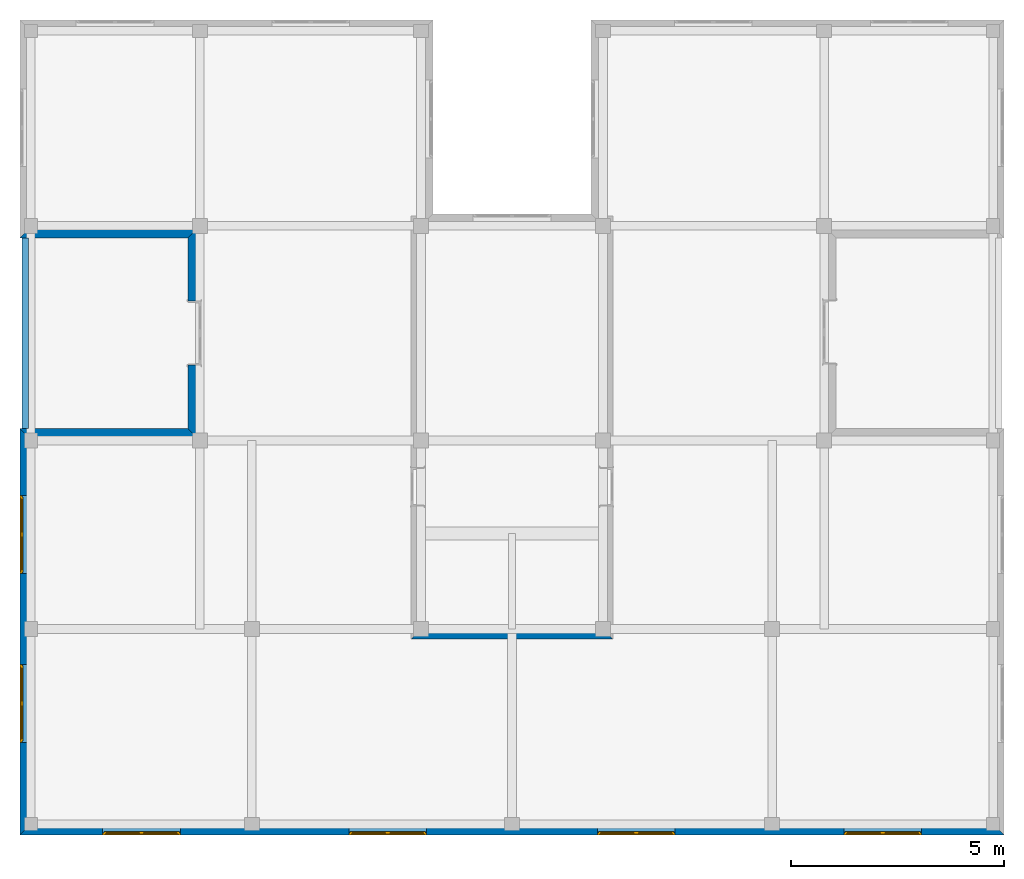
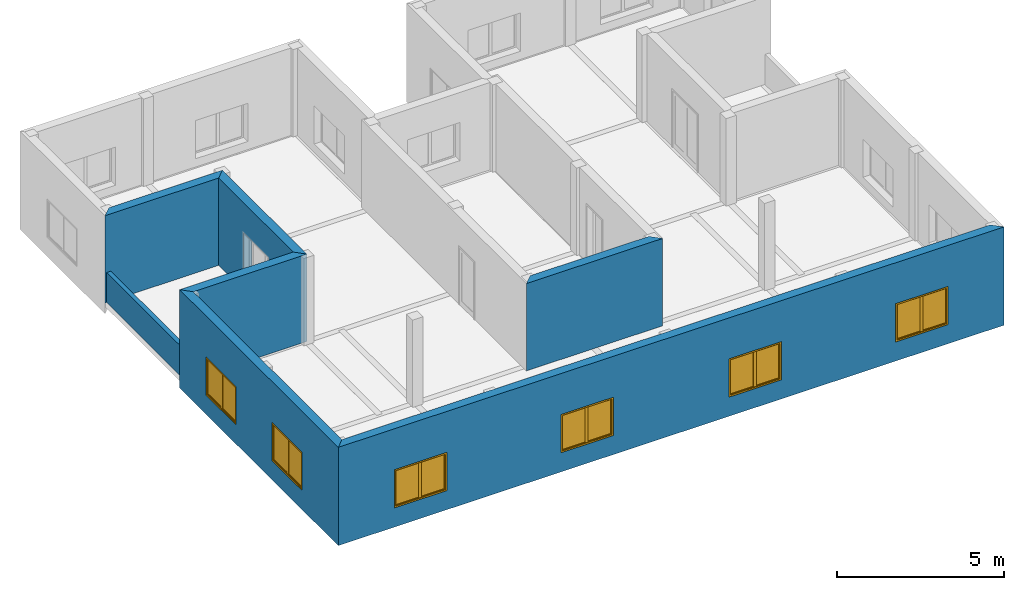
# One storey, part 2 of 6: 7 walls, 6 windows, 7 openings.
"""IFC2X3 building model written with IfcOpenShell, lengths in millimetres."""

from ifc_helpers import new_model, entity, si_unit, converted_unit, direction, frame, origin_with_axes, origin_2d_with_axis, place, context, subcontext, project, spatial, polyline, rectangle, outline, extrude, faceted_brep, source, transform, mapped, material, layer, layer_set, layer_usage, type_object, element, fill, save


model = new_model("IFC2X3")

# Units and contexts
model_context = context("Model", 3, precision=1e-05, world=origin_with_axes(), true_north=direction((0.0, 1.0)))
body_context = subcontext(model_context, "Body", "Model", "MODEL_VIEW")
ifc_project = project(units=[si_unit("LENGTHUNIT", "METRE", prefix="MILLI"), si_unit("AREAUNIT", "SQUARE_METRE"), si_unit("VOLUMEUNIT", "CUBIC_METRE"), converted_unit("PLANEANGLEUNIT", "DEGREE", entity("IfcPlaneAngleMeasure", 0.017453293), si_unit("PLANEANGLEUNIT", "RADIAN"), dimensions=[0, 0, 0, 0, 0, 0, 0]), si_unit("SOLIDANGLEUNIT", "STERADIAN"), si_unit("MASSUNIT", "GRAM"), si_unit("TIMEUNIT", "SECOND"), si_unit("THERMODYNAMICTEMPERATUREUNIT", "DEGREE_CELSIUS"), si_unit("LUMINOUSINTENSITYUNIT", "LUMEN")], contexts=[model_context])

# Site, building, storey
site_placement = place(None, origin_with_axes())
site = spatial("IfcSite", under=ifc_project, at=site_placement, Name="Sitio", CompositionType="ELEMENT")
building_placement = place(site_placement, origin_with_axes())
building = spatial("IfcBuilding", under=site, at=building_placement, Name="Ejemplo_StruBIM", CompositionType="ELEMENT")
storey_placement = place(building_placement, frame((0.0, 0.0, 3200.4), z_axis=(0.0, 0.0, 1.0), x_axis=(1.0, 0.0, 0.0)))
storey = spatial("IfcBuildingStorey", under=building, at=storey_placement, Name="First floor", CompositionType="ELEMENT", Elevation=3200.4)

# Wall, openings, windows
ifc_material_1 = material(Name="Bloque mampostería")
ifc_layer_1 = layer(ifc_material_1, 300.0, ventilated="UNKNOWN")
ifc_layer_set_1 = layer_set([ifc_layer_1], Name="Bloque mampostería 300")
ifc_layer_usage_1 = layer_usage(ifc_layer_set_1, "AXIS2", "POSITIVE", 0.0)
wall_type_1 = type_object("IfcWallType", Name="Bloque mampostería 11 3/4\"", PredefinedType="NOTDEFINED")
wall_1_placement = place(storey_placement, frame((-254.0, 9271.0, -400.0), z_axis=(0.0, 0.0, 1.0), x_axis=(0.0, -1.0, 0.0)))
wall_1 = element("IfcWallStandardCase", 1, at=wall_1_placement, inside=storey, type_object=wall_type_1, material=ifc_layer_usage_1, Name="Muro-010", context=body_context, shape_type="SweptSolid", body=[
    extrude(outline(polyline([(0.0, 0.0), (9525.0, 0.0), (9225.0, 300.0), (300.0, 300.0), (0.0, 0.0)])), origin_with_axes(), (0.0, 0.0, 1.0), 3600.4),
])
opening_1_placement = place(wall_1_placement, frame((2484.8, 0.0, 700.0), z_axis=(0.0, 0.0, 1.0), x_axis=(1.0, 0.0, 0.0)))
opening_1 = element("IfcOpeningElement", 2, at=opening_1_placement, cuts=wall_1, Name="V06", context=body_context, shape_type="SweptSolid", body=[
    extrude(rectangle(XDim=1820.0, YDim=1400.0, at=origin_2d_with_axis()), frame((0.0, 300.0, 700.0), z_axis=(0.0, 1.0, 0.0), x_axis=(1.0, 0.0, 0.0)), (0.0, 0.0, -1.0), 300.0),
])
opening_2_placement = place(wall_1_placement, frame((6443.3, 0.0, 700.0), z_axis=(0.0, 0.0, 1.0), x_axis=(1.0, 0.0, 0.0)))
opening_2 = element("IfcOpeningElement", 3, at=opening_2_placement, cuts=wall_1, Name="V07", context=body_context, shape_type="SweptSolid", body=[
    extrude(rectangle(XDim=1820.0, YDim=1400.0, at=origin_2d_with_axis()), frame((0.0, 300.0, 700.0), z_axis=(0.0, -1.0, 0.0), x_axis=(1.0, 0.0, 0.0)), (0.0, 0.0, 1.0), 300.0),
])
ifc_material_2 = material(Name="Fondo")
window_style = type_object("IfcWindowStyle", Name="Ventana Doble Hoja 16", ConstructionType="NOTDEFINED", OperationType="DOUBLE_PANEL_HORIZONTAL", ParameterTakesPrecedence=False, Sizeable=False)
shared_shape_1 = source(origin_with_axes(), body_context, "Body", "Brep", [
    faceted_brep([(885.0, -50.0, 1350.0), (910.0, -50.0, 1350.0), (910.0, 0.0, 1350.0), (860.0, 0.0, 1350.0), (860.0, -25.0, 1350.0), (885.0, -25.0, 1350.0), (885.0, -50.0, 50.0), (910.0, -50.0, 50.0), (910.0, 0.0, 50.0), (860.0, 0.0, 50.0), (860.0, -25.0, 50.0), (885.0, -25.0, 50.0)], [[[0, 1, 2, 3, 4, 5]], [[6, 7, 1, 0]], [[1, 7, 8, 2]], [[2, 8, 9, 3]], [[4, 3, 9, 10]], [[10, 11, 5, 4]], [[5, 11, 6, 0]], [[11, 10, 9, 8, 7, 6]]]),
    faceted_brep([(-860.0, -25.0, 1350.0), (-860.0, 0.0, 1350.0), (-910.0, 0.0, 1350.0), (-910.0, -50.0, 1350.0), (-885.0, -50.0, 1350.0), (-885.0, -25.0, 1350.0), (-860.0, -25.0, 50.0), (-860.0, 0.0, 50.0), (-910.0, 0.0, 50.0), (-910.0, -50.0, 50.0), (-885.0, -50.0, 50.0), (-885.0, -25.0, 50.0)], [[[0, 1, 2, 3, 4, 5]], [[6, 7, 1, 0]], [[8, 2, 1, 7]], [[9, 3, 2, 8]], [[4, 3, 9, 10]], [[10, 11, 5, 4]], [[5, 11, 6, 0]], [[11, 10, 9, 8, 7, 6]]]),
    faceted_brep([(-860.0, -25.0, 50.0), (-860.0, 0.0, 50.0), (-910.0, 0.0, 50.0), (-910.0, -50.0, 50.0), (-885.0, -50.0, 50.0), (-885.0, -25.0, 50.0), (860.0, -25.0, 50.0), (860.0, 0.0, 50.0), (910.0, 0.0, 50.0), (910.0, 0.0, 0.0), (-910.0, 0.0, 0.0), (-910.0, -50.0, 0.0), (885.0, -50.0, 25.0), (-885.0, -50.0, 25.0), (910.0, -50.0, 0.0), (910.0, -50.0, 50.0), (885.0, -50.0, 50.0), (-885.0, -25.0, 25.0), (885.0, -25.0, 25.0), (885.0, -25.0, 50.0)], [[[0, 1, 2, 3, 4, 5]], [[6, 7, 1, 0]], [[8, 9, 10, 2, 1, 7]], [[11, 3, 2, 10]], [[12, 13, 4, 3, 11, 14, 15, 16]], [[13, 17, 5, 4]], [[5, 17, 18, 19, 6, 0]], [[19, 16, 15, 8, 7, 6]], [[15, 14, 9, 8]], [[14, 11, 10, 9]], [[12, 18, 17, 13]], [[19, 18, 12, 16]]]),
    faceted_brep([(885.0, -50.0, 1350.0), (910.0, -50.0, 1350.0), (910.0, -50.0, 1400.0), (-910.0, -50.0, 1400.0), (-910.0, -50.0, 1350.0), (-885.0, -50.0, 1350.0), (-885.0, -50.0, 1375.0), (885.0, -50.0, 1375.0), (885.0, -25.0, 1350.0), (860.0, -25.0, 1350.0), (860.0, 0.0, 1350.0), (910.0, 0.0, 1350.0), (910.0, 0.0, 1400.0), (-910.0, 0.0, 1400.0), (-910.0, 0.0, 1350.0), (-885.0, -25.0, 1350.0), (-860.0, 0.0, 1350.0), (-860.0, -25.0, 1350.0), (-885.0, -25.0, 1375.0), (885.0, -25.0, 1375.0)], [[[0, 1, 2, 3, 4, 5, 6, 7]], [[8, 9, 10, 11, 1, 0]], [[2, 1, 11, 12]], [[3, 2, 12, 13]], [[4, 3, 13, 14]], [[15, 5, 4, 14, 16, 17]], [[5, 15, 18, 6]], [[6, 18, 19, 7]], [[7, 19, 8, 0]], [[17, 9, 8, 19, 18, 15]], [[17, 16, 10, 9]], [[14, 13, 12, 11, 10, 16]]]),
    faceted_brep([(835.0, -25.0, 1325.0), (835.0, -75.0, 1325.0), (885.0, -75.0, 1325.0), (885.0, -25.0, 1325.0), (835.0, -25.0, 75.0), (835.0, -75.0, 75.0), (885.0, -75.0, 75.0), (885.0, -25.0, 75.0)], [[[0, 1, 2, 3]], [[4, 5, 1, 0]], [[1, 5, 6, 2]], [[3, 2, 6, 7]], [[0, 3, 7, 4]], [[7, 6, 5, 4]]]),
    faceted_brep([(50.0, -25.0, 75.0), (50.0, -75.0, 75.0), (0.0, -75.0, 75.0), (0.0, -25.0, 75.0), (50.0, -25.0, 1325.0), (50.0, -75.0, 1325.0), (0.0, -75.0, 1325.0), (0.0, -25.0, 1325.0)], [[[0, 1, 2, 3]], [[4, 5, 1, 0]], [[1, 5, 6, 2]], [[3, 2, 6, 7]], [[0, 3, 7, 4]], [[7, 6, 5, 4]]]),
    faceted_brep([(0.0, -25.0, 25.0), (0.0, -75.0, 25.0), (0.0, -75.0, 75.0), (0.0, -25.0, 75.0), (885.0, -25.0, 25.0), (885.0, -75.0, 25.0), (885.0, -75.0, 75.0), (835.0, -75.0, 75.0), (50.0, -75.0, 75.0), (50.0, -25.0, 75.0), (835.0, -25.0, 75.0), (885.0, -25.0, 75.0)], [[[0, 1, 2, 3]], [[4, 5, 1, 0]], [[1, 5, 6, 7, 8, 2]], [[3, 2, 8, 9]], [[0, 3, 9, 10, 11, 4]], [[11, 6, 5, 4]], [[10, 7, 6, 11]], [[9, 8, 7, 10]]]),
    faceted_brep([(885.0, -25.0, 1375.0), (885.0, -75.0, 1375.0), (885.0, -75.0, 1325.0), (885.0, -25.0, 1325.0), (0.0, -25.0, 1375.0), (0.0, -75.0, 1375.0), (0.0, -75.0, 1325.0), (50.0, -75.0, 1325.0), (835.0, -75.0, 1325.0), (835.0, -25.0, 1325.0), (50.0, -25.0, 1325.0), (0.0, -25.0, 1325.0)], [[[0, 1, 2, 3]], [[4, 5, 1, 0]], [[1, 5, 6, 7, 8, 2]], [[3, 2, 8, 9]], [[0, 3, 9, 10, 11, 4]], [[11, 6, 5, 4]], [[10, 7, 6, 11]], [[9, 8, 7, 10]]]),
    faceted_brep([(835.0, -40.0, 75.0), (835.0, -60.0, 75.0), (50.0, -60.0, 75.0), (50.0, -40.0, 75.0), (835.0, -40.0, 1325.0), (835.0, -60.0, 1325.0), (50.0, -60.0, 1325.0), (50.0, -40.0, 1325.0)], [[[0, 1, 2, 3]], [[4, 5, 1, 0]], [[1, 5, 6, 2]], [[3, 2, 6, 7]], [[0, 3, 7, 4]], [[7, 6, 5, 4]]]),
    faceted_brep([(-50.0, -25.0, 1325.0), (-50.0, -75.0, 1325.0), (0.0, -75.0, 1325.0), (0.0, -25.0, 1325.0), (-50.0, -25.0, 75.0), (-50.0, -75.0, 75.0), (0.0, -75.0, 75.0), (0.0, -25.0, 75.0)], [[[0, 1, 2, 3]], [[4, 5, 1, 0]], [[1, 5, 6, 2]], [[3, 2, 6, 7]], [[0, 3, 7, 4]], [[7, 6, 5, 4]]]),
    faceted_brep([(-835.0, -25.0, 75.0), (-835.0, -75.0, 75.0), (-885.0, -75.0, 75.0), (-885.0, -25.0, 75.0), (-835.0, -25.0, 1325.0), (-835.0, -75.0, 1325.0), (-885.0, -75.0, 1325.0), (-885.0, -25.0, 1325.0)], [[[0, 1, 2, 3]], [[4, 5, 1, 0]], [[1, 5, 6, 2]], [[3, 2, 6, 7]], [[0, 3, 7, 4]], [[7, 6, 5, 4]]]),
    faceted_brep([(-885.0, -25.0, 25.0), (-885.0, -75.0, 25.0), (-885.0, -75.0, 75.0), (-885.0, -25.0, 75.0), (0.0, -25.0, 25.0), (0.0, -75.0, 25.0), (0.0, -75.0, 75.0), (-50.0, -75.0, 75.0), (-835.0, -75.0, 75.0), (-835.0, -25.0, 75.0), (-50.0, -25.0, 75.0), (0.0, -25.0, 75.0)], [[[0, 1, 2, 3]], [[4, 5, 1, 0]], [[1, 5, 6, 7, 8, 2]], [[3, 2, 8, 9]], [[0, 3, 9, 10, 11, 4]], [[11, 6, 5, 4]], [[10, 7, 6, 11]], [[9, 8, 7, 10]]]),
    faceted_brep([(0.0, -25.0, 1375.0), (0.0, -75.0, 1375.0), (0.0, -75.0, 1325.0), (0.0, -25.0, 1325.0), (-885.0, -25.0, 1375.0), (-885.0, -75.0, 1375.0), (-885.0, -75.0, 1325.0), (-835.0, -75.0, 1325.0), (-50.0, -75.0, 1325.0), (-50.0, -25.0, 1325.0), (-835.0, -25.0, 1325.0), (-885.0, -25.0, 1325.0)], [[[0, 1, 2, 3]], [[4, 5, 1, 0]], [[1, 5, 6, 7, 8, 2]], [[3, 2, 8, 9]], [[0, 3, 9, 10, 11, 4]], [[11, 6, 5, 4]], [[10, 7, 6, 11]], [[9, 8, 7, 10]]]),
    faceted_brep([(-50.0, -40.0, 75.0), (-50.0, -60.0, 75.0), (-835.0, -60.0, 75.0), (-835.0, -40.0, 75.0), (-50.0, -40.0, 1325.0), (-50.0, -60.0, 1325.0), (-835.0, -60.0, 1325.0), (-835.0, -40.0, 1325.0)], [[[0, 1, 2, 3]], [[4, 5, 1, 0]], [[1, 5, 6, 2]], [[3, 2, 6, 7]], [[0, 3, 7, 4]], [[7, 6, 5, 4]]]),
])
window_1_placement = place(opening_1_placement, frame((910.0, 0.0, 0.0), z_axis=(0.0, 0.0, 1.0), x_axis=(-1.0, 0.0, 0.0)))
window_1 = element("IfcWindow", 4, at=window_1_placement, inside=storey, type_object=window_style, material=ifc_material_2, Name="V06", OverallHeight=1400.0, OverallWidth=1820.0, context=body_context, shape_type="MappedRepresentation", body=[
    mapped(shared_shape_1, transform((910.0, 0.0, 0.0))),
])
fill(opening_1, window_1)
shared_shape_2 = source(origin_with_axes(), body_context, "Body", "Brep", [
    faceted_brep([(-885.0, -50.0, 1350.0), (-885.0, -25.0, 1350.0), (-860.0, -25.0, 1350.0), (-860.0, 0.0, 1350.0), (-910.0, 0.0, 1350.0), (-910.0, -50.0, 1350.0), (-885.0, -50.0, 50.0), (-885.0, -25.0, 50.0), (-860.0, -25.0, 50.0), (-860.0, 0.0, 50.0), (-910.0, 0.0, 50.0), (-910.0, -50.0, 50.0)], [[[0, 1, 2, 3, 4, 5]], [[1, 0, 6, 7]], [[8, 2, 1, 7]], [[2, 8, 9, 3]], [[4, 3, 9, 10]], [[5, 4, 10, 11]], [[6, 0, 5, 11]], [[7, 6, 11, 10, 9, 8]]]),
    faceted_brep([(860.0, -25.0, 1350.0), (885.0, -25.0, 1350.0), (885.0, -50.0, 1350.0), (910.0, -50.0, 1350.0), (910.0, 0.0, 1350.0), (860.0, 0.0, 1350.0), (860.0, -25.0, 50.0), (885.0, -25.0, 50.0), (885.0, -50.0, 50.0), (910.0, -50.0, 50.0), (910.0, 0.0, 50.0), (860.0, 0.0, 50.0)], [[[0, 1, 2, 3, 4, 5]], [[1, 0, 6, 7]], [[8, 2, 1, 7]], [[2, 8, 9, 3]], [[9, 10, 4, 3]], [[10, 11, 5, 4]], [[6, 0, 5, 11]], [[7, 6, 11, 10, 9, 8]]]),
    faceted_brep([(860.0, -25.0, 50.0), (885.0, -25.0, 50.0), (885.0, -50.0, 50.0), (910.0, -50.0, 50.0), (910.0, 0.0, 50.0), (860.0, 0.0, 50.0), (-860.0, -25.0, 50.0), (-885.0, -25.0, 50.0), (-885.0, -25.0, 25.0), (885.0, -25.0, 25.0), (885.0, -50.0, 25.0), (-885.0, -50.0, 25.0), (-885.0, -50.0, 50.0), (-910.0, -50.0, 50.0), (-910.0, -50.0, 0.0), (910.0, -50.0, 0.0), (910.0, 0.0, 0.0), (-910.0, 0.0, 50.0), (-860.0, 0.0, 50.0), (-910.0, 0.0, 0.0)], [[[0, 1, 2, 3, 4, 5]], [[1, 0, 6, 7, 8, 9]], [[10, 2, 1, 9]], [[11, 12, 13, 14, 15, 3, 2, 10]], [[15, 16, 4, 3]], [[17, 18, 5, 4, 16, 19]], [[6, 0, 5, 18]], [[7, 6, 18, 17, 13, 12]], [[7, 12, 11, 8]], [[11, 10, 9, 8]], [[13, 17, 19, 14]], [[14, 19, 16, 15]]]),
    faceted_brep([(-885.0, -50.0, 1350.0), (-885.0, -50.0, 1375.0), (885.0, -50.0, 1375.0), (885.0, -50.0, 1350.0), (910.0, -50.0, 1350.0), (910.0, -50.0, 1400.0), (-910.0, -50.0, 1400.0), (-910.0, -50.0, 1350.0), (-885.0, -25.0, 1350.0), (-885.0, -25.0, 1375.0), (885.0, -25.0, 1375.0), (885.0, -25.0, 1350.0), (860.0, -25.0, 1350.0), (860.0, 0.0, 1350.0), (910.0, 0.0, 1350.0), (910.0, 0.0, 1400.0), (-910.0, 0.0, 1400.0), (-910.0, 0.0, 1350.0), (-860.0, 0.0, 1350.0), (-860.0, -25.0, 1350.0)], [[[0, 1, 2, 3, 4, 5, 6, 7]], [[1, 0, 8, 9]], [[2, 1, 9, 10]], [[3, 2, 10, 11]], [[11, 12, 13, 14, 4, 3]], [[4, 14, 15, 5]], [[5, 15, 16, 6]], [[6, 16, 17, 7]], [[8, 0, 7, 17, 18, 19]], [[12, 11, 10, 9, 8, 19]], [[12, 19, 18, 13]], [[14, 13, 18, 17, 16, 15]]]),
    faceted_brep([(-835.0, -25.0, 1325.0), (-885.0, -25.0, 1325.0), (-885.0, -75.0, 1325.0), (-835.0, -75.0, 1325.0), (-835.0, -25.0, 75.0), (-885.0, -25.0, 75.0), (-885.0, -75.0, 75.0), (-835.0, -75.0, 75.0)], [[[0, 1, 2, 3]], [[0, 4, 5, 1]], [[1, 5, 6, 2]], [[3, 2, 6, 7]], [[4, 0, 3, 7]], [[5, 4, 7, 6]]]),
    faceted_brep([(-50.0, -25.0, 75.0), (0.0, -25.0, 75.0), (0.0, -75.0, 75.0), (-50.0, -75.0, 75.0), (-50.0, -25.0, 1325.0), (0.0, -25.0, 1325.0), (0.0, -75.0, 1325.0), (-50.0, -75.0, 1325.0)], [[[0, 1, 2, 3]], [[0, 4, 5, 1]], [[1, 5, 6, 2]], [[3, 2, 6, 7]], [[4, 0, 3, 7]], [[5, 4, 7, 6]]]),
    faceted_brep([(0.0, -25.0, 25.0), (0.0, -25.0, 75.0), (0.0, -75.0, 75.0), (0.0, -75.0, 25.0), (-885.0, -25.0, 25.0), (-885.0, -25.0, 75.0), (-835.0, -25.0, 75.0), (-50.0, -25.0, 75.0), (-50.0, -75.0, 75.0), (-835.0, -75.0, 75.0), (-885.0, -75.0, 75.0), (-885.0, -75.0, 25.0)], [[[0, 1, 2, 3]], [[0, 4, 5, 6, 7, 1]], [[1, 7, 8, 2]], [[3, 2, 8, 9, 10, 11]], [[4, 0, 3, 11]], [[5, 4, 11, 10]], [[6, 5, 10, 9]], [[7, 6, 9, 8]]]),
    faceted_brep([(-885.0, -25.0, 1375.0), (-885.0, -25.0, 1325.0), (-885.0, -75.0, 1325.0), (-885.0, -75.0, 1375.0), (0.0, -25.0, 1375.0), (0.0, -25.0, 1325.0), (-50.0, -25.0, 1325.0), (-835.0, -25.0, 1325.0), (-835.0, -75.0, 1325.0), (-50.0, -75.0, 1325.0), (0.0, -75.0, 1325.0), (0.0, -75.0, 1375.0)], [[[0, 1, 2, 3]], [[0, 4, 5, 6, 7, 1]], [[1, 7, 8, 2]], [[3, 2, 8, 9, 10, 11]], [[4, 0, 3, 11]], [[5, 4, 11, 10]], [[6, 5, 10, 9]], [[7, 6, 9, 8]]]),
    faceted_brep([(-835.0, -40.0, 75.0), (-50.0, -40.0, 75.0), (-50.0, -60.0, 75.0), (-835.0, -60.0, 75.0), (-835.0, -40.0, 1325.0), (-50.0, -40.0, 1325.0), (-50.0, -60.0, 1325.0), (-835.0, -60.0, 1325.0)], [[[0, 1, 2, 3]], [[0, 4, 5, 1]], [[1, 5, 6, 2]], [[3, 2, 6, 7]], [[4, 0, 3, 7]], [[5, 4, 7, 6]]]),
    faceted_brep([(50.0, -25.0, 1325.0), (0.0, -25.0, 1325.0), (0.0, -75.0, 1325.0), (50.0, -75.0, 1325.0), (50.0, -25.0, 75.0), (0.0, -25.0, 75.0), (0.0, -75.0, 75.0), (50.0, -75.0, 75.0)], [[[0, 1, 2, 3]], [[0, 4, 5, 1]], [[1, 5, 6, 2]], [[3, 2, 6, 7]], [[4, 0, 3, 7]], [[5, 4, 7, 6]]]),
    faceted_brep([(835.0, -25.0, 75.0), (885.0, -25.0, 75.0), (885.0, -75.0, 75.0), (835.0, -75.0, 75.0), (835.0, -25.0, 1325.0), (885.0, -25.0, 1325.0), (885.0, -75.0, 1325.0), (835.0, -75.0, 1325.0)], [[[0, 1, 2, 3]], [[0, 4, 5, 1]], [[1, 5, 6, 2]], [[3, 2, 6, 7]], [[4, 0, 3, 7]], [[5, 4, 7, 6]]]),
    faceted_brep([(885.0, -25.0, 25.0), (885.0, -25.0, 75.0), (885.0, -75.0, 75.0), (885.0, -75.0, 25.0), (0.0, -25.0, 25.0), (0.0, -25.0, 75.0), (50.0, -25.0, 75.0), (835.0, -25.0, 75.0), (835.0, -75.0, 75.0), (50.0, -75.0, 75.0), (0.0, -75.0, 75.0), (0.0, -75.0, 25.0)], [[[0, 1, 2, 3]], [[0, 4, 5, 6, 7, 1]], [[1, 7, 8, 2]], [[3, 2, 8, 9, 10, 11]], [[4, 0, 3, 11]], [[5, 4, 11, 10]], [[6, 5, 10, 9]], [[7, 6, 9, 8]]]),
    faceted_brep([(0.0, -25.0, 1375.0), (0.0, -25.0, 1325.0), (0.0, -75.0, 1325.0), (0.0, -75.0, 1375.0), (885.0, -25.0, 1375.0), (885.0, -25.0, 1325.0), (835.0, -25.0, 1325.0), (50.0, -25.0, 1325.0), (50.0, -75.0, 1325.0), (835.0, -75.0, 1325.0), (885.0, -75.0, 1325.0), (885.0, -75.0, 1375.0)], [[[0, 1, 2, 3]], [[0, 4, 5, 6, 7, 1]], [[1, 7, 8, 2]], [[3, 2, 8, 9, 10, 11]], [[4, 0, 3, 11]], [[5, 4, 11, 10]], [[6, 5, 10, 9]], [[7, 6, 9, 8]]]),
    faceted_brep([(50.0, -40.0, 75.0), (835.0, -40.0, 75.0), (835.0, -60.0, 75.0), (50.0, -60.0, 75.0), (50.0, -40.0, 1325.0), (835.0, -40.0, 1325.0), (835.0, -60.0, 1325.0), (50.0, -60.0, 1325.0)], [[[0, 1, 2, 3]], [[0, 4, 5, 1]], [[1, 5, 6, 2]], [[3, 2, 6, 7]], [[4, 0, 3, 7]], [[5, 4, 7, 6]]]),
])
window_2_placement = place(opening_2_placement, frame((910.0, 0.0, 0.0), z_axis=(0.0, 0.0, 1.0), x_axis=(-1.0, 0.0, 0.0)))
window_2 = element("IfcWindow", 5, at=window_2_placement, inside=storey, type_object=window_style, material=ifc_material_2, Name="V07", OverallHeight=1400.0, OverallWidth=1820.0, context=body_context, shape_type="MappedRepresentation", body=[
    mapped(shared_shape_2, transform((910.0, 0.0, 0.0))),
])
fill(opening_2, window_2)

# Wall
ifc_layer_usage_2 = layer_usage(ifc_layer_set_1, "AXIS2", "POSITIVE", 0.0)
wall_2_placement = place(storey_placement, frame((-254.0, 13741.4, 0.0), z_axis=(0.0, 0.0, 1.0), x_axis=(1.0, 0.0, 0.0)))
element("IfcWallStandardCase", 6, at=wall_2_placement, inside=storey, type_object=wall_type_1, material=ifc_layer_usage_2, Name="Muro-007", context=body_context, shape_type="SweptSolid", body=[
    extrude(outline(polyline([(0.0, 0.0), (3937.0, 0.0), (4237.0, 300.0), (300.0, 300.0), (0.0, 0.0)])), origin_with_axes(), (0.0, 0.0, 1.0), 3200.4),
])

# Wall, opening
ifc_layer_usage_3 = layer_usage(ifc_layer_set_1, "AXIS2", "POSITIVE", 0.0)
wall_3_placement = place(storey_placement, frame((3683.0, 13741.4, 0.0), z_axis=(0.0, 0.0, 1.0), x_axis=(0.0, -1.0, 0.0)))
wall_3 = element("IfcWallStandardCase", 7, at=wall_3_placement, inside=storey, type_object=wall_type_1, material=ifc_layer_usage_3, Name="Muro-008", context=body_context, shape_type="SweptSolid", body=[
    extrude(outline(polyline([(0.0, 0.0), (4470.4, 0.0), (4770.4, 300.0), (-300.0, 300.0), (0.0, 0.0)])), origin_with_axes(), (0.0, 0.0, 1.0), 3200.4),
])
opening_3_placement = place(wall_3_placement, frame((2235.2, 0.0, 0.0), z_axis=(0.0, 0.0, 1.0), x_axis=(1.0, 0.0, 0.0)))
element("IfcOpeningElement", 8, at=opening_3_placement, cuts=wall_3, Name="P06", context=body_context, shape_type="SweptSolid", body=[
    extrude(rectangle(XDim=1500.0, YDim=2100.0, at=origin_2d_with_axis()), frame((0.0, 0.0, 1050.0), z_axis=(0.0, 1.0, 0.0), x_axis=(1.0, 0.0, 0.0)), (0.0, 0.0, 1.0), 300.0),
    extrude(rectangle(XDim=1574.0, YDim=2137.0, at=origin_2d_with_axis()), frame((0.0, 0.0, 1068.5), z_axis=(0.0, 1.0, 0.0), x_axis=(1.0, 0.0, 0.0)), (0.0, 0.0, -1.0), 300.0),
    extrude(rectangle(XDim=1574.0, YDim=2137.0, at=origin_2d_with_axis()), frame((0.0, 300.0, 1068.5), z_axis=(0.0, -1.0, 0.0), x_axis=(1.0, 0.0, 0.0)), (0.0, 0.0, -1.0), 300.0),
])

# Wall
ifc_layer_usage_4 = layer_usage(ifc_layer_set_1, "AXIS2", "POSITIVE", 0.0)
wall_4_placement = place(storey_placement, frame((3683.0, 9271.0, 0.0), z_axis=(0.0, 0.0, 1.0), x_axis=(-1.0, 0.0, 0.0)))
element("IfcWallStandardCase", 9, at=wall_4_placement, inside=storey, type_object=wall_type_1, material=ifc_layer_usage_4, Name="Muro-009", context=body_context, shape_type="SweptSolid", body=[
    extrude(outline(polyline([(0.0, 0.0), (3937.0, 0.0), (3637.0, 300.0), (-300.0, 300.0), (0.0, 0.0)])), origin_with_axes(), (0.0, 0.0, 1.0), 3200.4),
])

# Wall, openings, windows
ifc_layer_usage_5 = layer_usage(ifc_layer_set_1, "AXIS2", "POSITIVE", 0.0)
wall_5_placement = place(storey_placement, frame((-254.0, -254.0, -400.0), z_axis=(0.0, 0.0, 1.0), x_axis=(1.0, 0.0, 0.0)))
wall_5 = element("IfcWallStandardCase", 10, at=wall_5_placement, inside=storey, type_object=wall_type_1, material=ifc_layer_usage_5, Name="Muro-015", context=body_context, shape_type="SweptSolid", body=[
    extrude(outline(polyline([(0.0, 0.0), (23063.2, 0.0), (22763.2, 300.0), (300.0, 300.0), (0.0, 0.0)])), origin_with_axes(), (0.0, 0.0, 1.0), 3600.4),
])
opening_4_placement = place(wall_5_placement, frame((14444.3, 0.0, 700.0), z_axis=(0.0, 0.0, 1.0), x_axis=(1.0, 0.0, 0.0)))
opening_4 = element("IfcOpeningElement", 11, at=opening_4_placement, cuts=wall_5, Name="V16", context=body_context, shape_type="SweptSolid", body=[
    extrude(rectangle(XDim=1820.0, YDim=1400.0, at=origin_2d_with_axis()), frame((0.0, 300.0, 700.0), z_axis=(0.0, 1.0, 0.0), x_axis=(1.0, 0.0, 0.0)), (0.0, 0.0, -1.0), 300.0),
])
opening_5_placement = place(wall_5_placement, frame((8618.9, 0.0, 700.0), z_axis=(0.0, 0.0, 1.0), x_axis=(1.0, 0.0, 0.0)))
opening_5 = element("IfcOpeningElement", 12, at=opening_5_placement, cuts=wall_5, Name="V17", context=body_context, shape_type="SweptSolid", body=[
    extrude(rectangle(XDim=1820.0, YDim=1400.0, at=origin_2d_with_axis()), frame((0.0, 300.0, 700.0), z_axis=(0.0, -1.0, 0.0), x_axis=(1.0, 0.0, 0.0)), (0.0, 0.0, 1.0), 300.0),
])
opening_6_placement = place(wall_5_placement, frame((20218.4, 0.0, 700.0), z_axis=(0.0, 0.0, 1.0), x_axis=(1.0, 0.0, 0.0)))
opening_6 = element("IfcOpeningElement", 13, at=opening_6_placement, cuts=wall_5, Name="V20", context=body_context, shape_type="SweptSolid", body=[
    extrude(rectangle(XDim=1820.0, YDim=1400.0, at=origin_2d_with_axis()), frame((0.0, 300.0, 700.0), z_axis=(0.0, 1.0, 0.0), x_axis=(1.0, 0.0, 0.0)), (0.0, 0.0, -1.0), 300.0),
])
opening_7_placement = place(wall_5_placement, frame((2849.2105, 0.0, 700.0), z_axis=(0.0, 0.0, 1.0), x_axis=(1.0, 0.0, 0.0)))
opening_7 = element("IfcOpeningElement", 14, at=opening_7_placement, cuts=wall_5, Name="V21", context=body_context, shape_type="SweptSolid", body=[
    extrude(rectangle(XDim=1820.0, YDim=1400.0, at=origin_2d_with_axis()), frame((0.0, 300.0, 700.0), z_axis=(0.0, 1.0, 0.0), x_axis=(1.0, 0.0, 0.0)), (0.0, 0.0, -1.0), 300.0),
])
window_3_placement = place(opening_4_placement, frame((910.0, 0.0, 0.0), z_axis=(0.0, 0.0, 1.0), x_axis=(-1.0, 0.0, 0.0)))
window_3 = element("IfcWindow", 15, at=window_3_placement, inside=storey, type_object=window_style, material=ifc_material_2, Name="V16", OverallHeight=1400.0, OverallWidth=1820.0, context=body_context, shape_type="MappedRepresentation", body=[
    mapped(shared_shape_1, transform((910.0, 0.0, 0.0))),
])
fill(opening_4, window_3)
window_4_placement = place(opening_6_placement, frame((910.0, 0.0, 0.0), z_axis=(0.0, 0.0, 1.0), x_axis=(-1.0, 0.0, 0.0)))
window_4 = element("IfcWindow", 16, at=window_4_placement, inside=storey, type_object=window_style, material=ifc_material_2, Name="V20", OverallHeight=1400.0, OverallWidth=1820.0, context=body_context, shape_type="MappedRepresentation", body=[
    mapped(shared_shape_1, transform((910.0, 0.0, 0.0))),
])
fill(opening_6, window_4)
window_5_placement = place(opening_7_placement, frame((910.0, 0.0, 0.0), z_axis=(0.0, 0.0, 1.0), x_axis=(-1.0, 0.0, 0.0)))
window_5 = element("IfcWindow", 17, at=window_5_placement, inside=storey, type_object=window_style, material=ifc_material_2, Name="V21", OverallHeight=1400.0, OverallWidth=1820.0, context=body_context, shape_type="MappedRepresentation", body=[
    mapped(shared_shape_1, transform((910.0, 0.0, 0.0))),
])
fill(opening_7, window_5)
window_6_placement = place(opening_5_placement, frame((910.0, 0.0, 0.0), z_axis=(0.0, 0.0, 1.0), x_axis=(-1.0, 0.0, 0.0)))
window_6 = element("IfcWindow", 18, at=window_6_placement, inside=storey, type_object=window_style, material=ifc_material_2, Name="V17", OverallHeight=1400.0, OverallWidth=1820.0, context=body_context, shape_type="MappedRepresentation", body=[
    mapped(shared_shape_2, transform((910.0, 0.0, 0.0))),
])
fill(opening_5, window_6)

# Walls
ifc_layer_usage_6 = layer_usage(ifc_layer_set_1, "AXIS2", "POSITIVE", 0.0)
wall_6_placement = place(storey_placement, frame((8915.4, 4343.4, 0.0), z_axis=(0.0, 0.0, 1.0), x_axis=(1.0, 0.0, 0.0)))
element("IfcWallStandardCase", 19, at=wall_6_placement, inside=storey, type_object=wall_type_1, material=ifc_layer_usage_6, Name="Muro-008", context=body_context, shape_type="SweptSolid", body=[
    extrude(outline(polyline([(0.0, 0.0), (4724.4, 0.0), (4424.4, 300.0), (300.0, 300.0), (0.0, 0.0)])), origin_with_axes(), (0.0, 0.0, 1.0), 3200.4),
])
ifc_layer_2 = layer(ifc_material_1, 150.0, ventilated="UNKNOWN")
ifc_layer_set_2 = layer_set([ifc_layer_2], Name="Bloque mampostería 150")
ifc_layer_usage_7 = layer_usage(ifc_layer_set_2, "AXIS2", "POSITIVE", 0.0)
wall_type_2 = type_object("IfcWallType", Name="Bloque mampostería 6\"", PredefinedType="NOTDEFINED")
wall_7_placement = place(storey_placement, frame((-203.2, 13741.4, 0.0), z_axis=(0.0, 0.0, 1.0), x_axis=(0.0, -1.0, 0.0)))
element("IfcWallStandardCase", 20, at=wall_7_placement, inside=storey, type_object=wall_type_2, material=ifc_layer_usage_7, Name="Muro-011", context=body_context, shape_type="SweptSolid", body=[
    extrude(outline(polyline([(0.0, 0.0), (4470.4, 0.0), (4470.4, 150.0), (0.0, 150.0), (0.0, 0.0)])), origin_with_axes(), (0.0, 0.0, 1.0), 1100.0),
])

save(model, "model.ifc")
